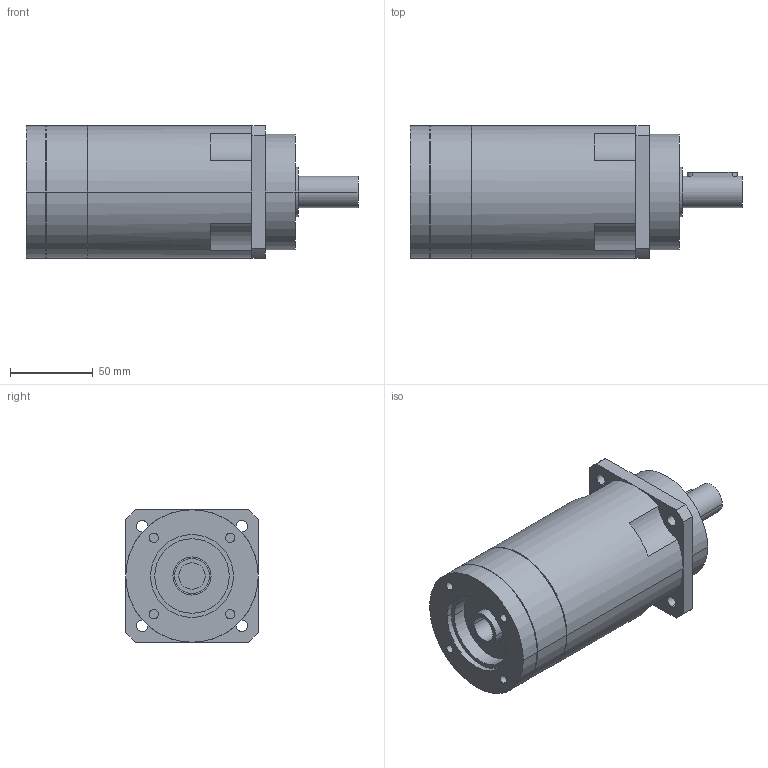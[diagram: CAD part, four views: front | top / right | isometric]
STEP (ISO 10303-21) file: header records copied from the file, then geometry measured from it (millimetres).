
FILE_DESCRIPTION(('CoCreate Modeling STEP Export'),'2;1');
FILE_NAME('GPR100_ig-48-64-80-100-120-144-180-216_19_B5_15.87_P10.stp','2014-08-26T11:55:37',(''),(''),'CoCreate Modeling STEP processor for AP214 (Solid Model)','CoCreate Modeling 16.00C 25-Feb-2009 (C) Parametric Technology GmbH','');
FILE_SCHEMA(('AUTOMOTIVE_DESIGN { 1 0 10303 214 1 1 1 1 }'));
Length unit declared in the file: millimetre
Products named in the file (2): GPR100_ig-48-64-80-100-120-144-180-216_19_B5_15.87_P10
Assembly tree (1 placements, depth 2):
  GPR100_ig-48-64-80-100-120-144-180-216_19_B5_15.87_P10
    GPR100_ig-48-64-80-100-120-144-180-216_19_B5_15.87_P10
Bounding box: 200.4 x 80 x 80 mm (x, y, z)
Volume: 780402.1 mm3; surface area: 62702.3 mm2
Topology: 1 solids, 1 shells, 99 faces, 256 edges, 176 vertices
Faces by surface type: cylinder 58, plane 35, cone 6
Entity records: 2674 total; most frequent: ORIENTED_EDGE 508, CARTESIAN_POINT 478, DIRECTION 386, EDGE_CURVE 254, VERTEX_POINT 176, AXIS2_PLACEMENT_3D 148, EDGE_LOOP 126, FACE_OUTER_BOUND 99
